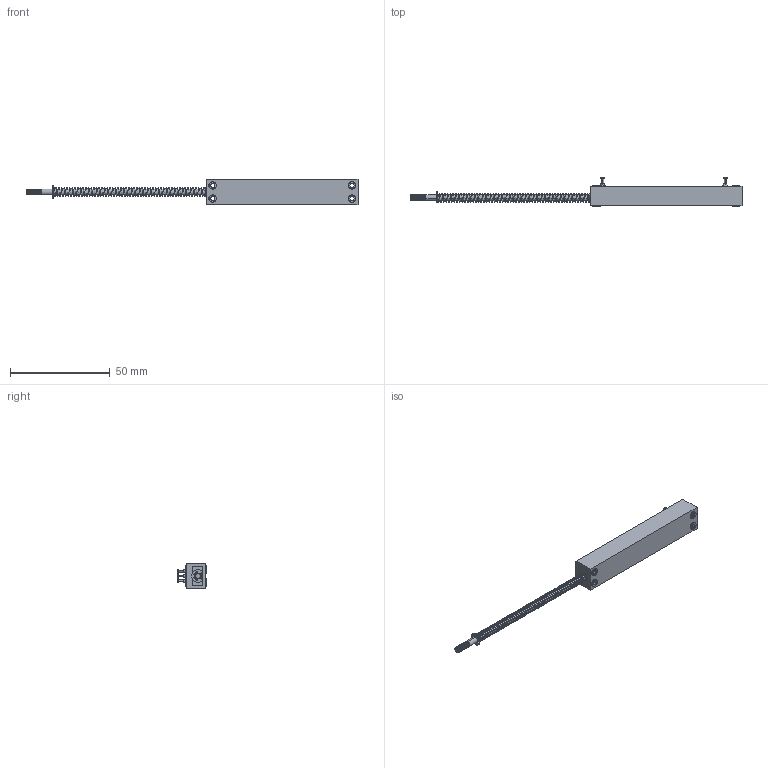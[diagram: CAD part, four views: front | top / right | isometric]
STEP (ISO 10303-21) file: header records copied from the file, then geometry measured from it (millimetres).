
FILE_DESCRIPTION (( 'STEP AP214' ), '1' );
FILE_NAME ('CLPR13_50.STEP', '2016-11-28T10:49:01', ( '' ), ( '' ), 'SwSTEP 2.0', 'SolidWorks 2016', '' );
FILE_SCHEMA (( 'AUTOMOTIVE_DESIGN' ));
Length unit declared in the file: millimetre
Products named in the file (8): lock washer for shafts_din_Lock washer DIN 6799 - 2.3; Feder_CLPR13-50; Taster_CLPR50_M2; Lager_CLP13; Lötstifte_hoch_CLP13; Hohlniet_CLP13; Gehäuse_CLPR13-50; CLPR13_50
Assembly tree (12 placements, depth 2):
  CLPR13_50
    Gehäuse_CLPR13-50
    Hohlniet_CLP13  x4
    Lötstifte_hoch_CLP13  x3
    Lager_CLP13
    Taster_CLPR50_M2
    Feder_CLPR13-50
    lock washer for shafts_din_Lock washer DIN 6799 - 2.3
Bounding box: 166.8 x 15 x 13 mm (x, y, z)
Volume: 9919 mm3; surface area: 7400.7 mm2
Topology: 12 solids, 12 shells, 487 faces, 1210 edges, 797 vertices
Faces by surface type: plane 224, cylinder 114, bspline 106, cone 43
Entity records: 47106 total; most frequent: CARTESIAN_POINT 34440, ORIENTED_EDGE 2140, DIRECTION 1572, EDGE_CURVE 1070, VERTEX_POINT 709, VECTOR 650, LINE 650, EDGE_LOOP 467
